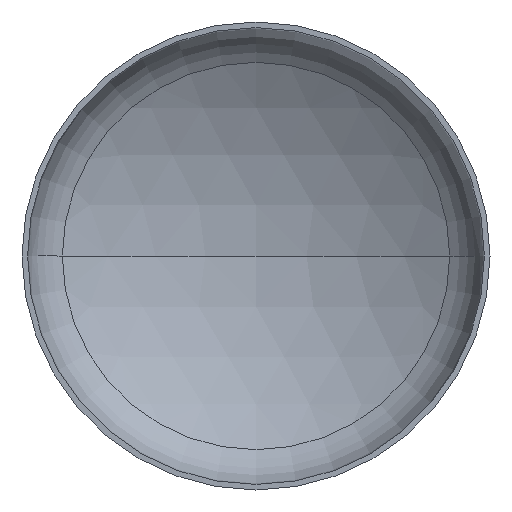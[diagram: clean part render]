
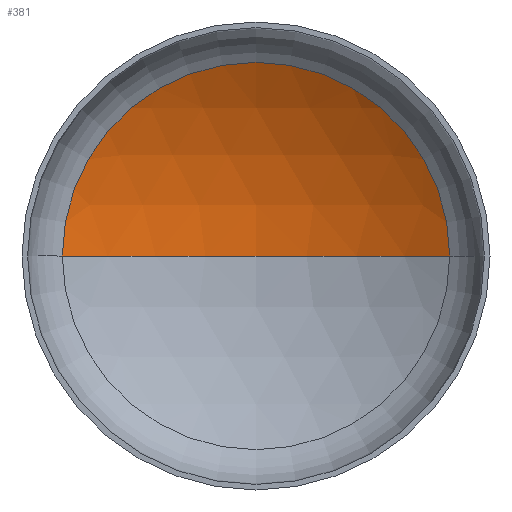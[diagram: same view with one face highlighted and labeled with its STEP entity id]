
A CAD part, front view. The second image highlights one B-rep face of the part: STEP entity #381.
In plain terms, the highlighted spherical face has radius 2080 mm.
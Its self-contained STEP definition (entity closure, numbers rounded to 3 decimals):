
#3 = VERTEX_POINT ( 'NONE', #139 ) ;
#16 = AXIS2_PLACEMENT_3D ( 'NONE', #410, #191, #267 ) ;
#21 = EDGE_LOOP ( 'NONE', ( #104, #94, #87 ) ) ;
#45 = AXIS2_PLACEMENT_3D ( 'NONE', #215, #372, #240 ) ;
#68 = AXIS2_PLACEMENT_3D ( 'NONE', #109, #308, #151 ) ;
#81 = CARTESIAN_POINT ( 'NONE',  ( 1075.905, 442.331, 0. ) ) ;
#87 = ORIENTED_EDGE ( 'NONE', *, *, #358, .T. ) ;
#90 = CARTESIAN_POINT ( 'NONE',  ( -1075.905, 442.331, 0. ) ) ;
#94 = ORIENTED_EDGE ( 'NONE', *, *, #361, .T. ) ;
#99 = VERTEX_POINT ( 'NONE', #81 ) ;
#104 = ORIENTED_EDGE ( 'NONE', *, *, #401, .F. ) ;
#109 = CARTESIAN_POINT ( 'NONE',  ( 0., 442.331, 0. ) ) ;
#136 = CIRCLE ( 'NONE', #219, 2080. ) ;
#139 = CARTESIAN_POINT ( 'NONE',  ( 0., 742.21, 0. ) ) ;
#147 = FACE_OUTER_BOUND ( 'NONE', #21, .T. ) ;
#151 = DIRECTION ( 'NONE',  ( 1., 0., 0. ) ) ;
#156 = DIRECTION ( 'NONE',  ( 0., 0., 1. ) ) ;
#191 = DIRECTION ( 'NONE',  ( 0., 0., -1. ) ) ;
#215 = CARTESIAN_POINT ( 'NONE',  ( 0., -1337.79, 0. ) ) ;
#219 = AXIS2_PLACEMENT_3D ( 'NONE', #310, #156, #330 ) ;
#240 = DIRECTION ( 'NONE',  ( -1., 0., 0. ) ) ;
#267 = DIRECTION ( 'NONE',  ( -1., 0., 0. ) ) ;
#289 = VERTEX_POINT ( 'NONE', #90 ) ;
#299 = CIRCLE ( 'NONE', #68, 1075.905 ) ;
#308 = DIRECTION ( 'NONE',  ( 0., -1., 0. ) ) ;
#310 = CARTESIAN_POINT ( 'NONE',  ( 0., -1337.79, 0. ) ) ;
#330 = DIRECTION ( 'NONE',  ( 1., 0., 0. ) ) ;
#347 = CIRCLE ( 'NONE', #45, 2080. ) ;
#358 = EDGE_CURVE ( 'NONE', #99, #289, #299, .T. ) ;
#361 = EDGE_CURVE ( 'NONE', #3, #99, #347, .T. ) ;
#372 = DIRECTION ( 'NONE',  ( 0., 0., -1. ) ) ;
#381 = ADVANCED_FACE ( 'NONE', ( #147 ), #397, .F. ) ;
#397 = SPHERICAL_SURFACE ( 'NONE', #16, 2080. ) ;
#401 = EDGE_CURVE ( 'NONE', #3, #289, #136, .T. ) ;
#410 = CARTESIAN_POINT ( 'NONE',  ( 0., -1337.79, 0. ) ) ;
